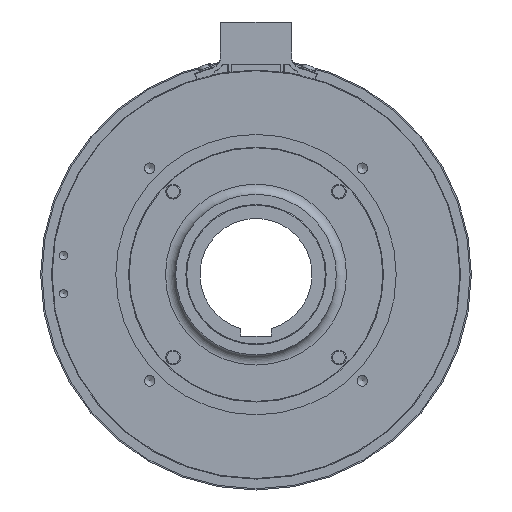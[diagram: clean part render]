
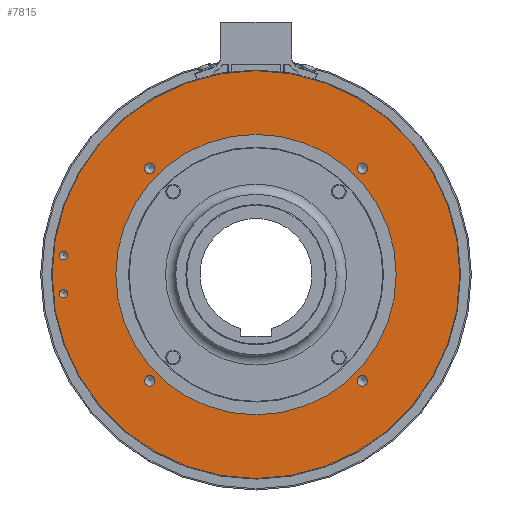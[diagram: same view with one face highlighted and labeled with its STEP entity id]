
A CAD part, left-side view. The second image highlights one B-rep face of the part: STEP entity #7815.
In plain terms, the highlighted planar face has unit normal (-1, 0, 0).
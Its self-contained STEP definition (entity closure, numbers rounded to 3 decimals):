
#1317=FACE_BOUND('',#1989,.T.);
#1318=FACE_BOUND('',#1990,.T.);
#1319=FACE_BOUND('',#1991,.T.);
#1320=FACE_BOUND('',#1992,.T.);
#1321=FACE_BOUND('',#1993,.T.);
#1322=FACE_BOUND('',#1994,.T.);
#1323=FACE_BOUND('',#1995,.T.);
#1509=FACE_OUTER_BOUND('',#1988,.T.);
#1988=EDGE_LOOP('',(#5665,#5666));
#1989=EDGE_LOOP('',(#5667,#5668));
#1990=EDGE_LOOP('',(#5669,#5670));
#1991=EDGE_LOOP('',(#5671,#5672));
#1992=EDGE_LOOP('',(#5673,#5674));
#1993=EDGE_LOOP('',(#5675,#5676));
#1994=EDGE_LOOP('',(#5677,#5678));
#1995=EDGE_LOOP('',(#5679,#5680));
#2622=CIRCLE('',#8509,55.);
#2623=CIRCLE('',#8510,55.);
#2624=CIRCLE('',#8512,80.);
#2625=CIRCLE('',#8513,80.);
#2626=CIRCLE('',#8514,1.621);
#2627=CIRCLE('',#8515,1.621);
#2628=CIRCLE('',#8516,1.621);
#2629=CIRCLE('',#8517,1.621);
#2630=CIRCLE('',#8518,2.067);
#2631=CIRCLE('',#8519,2.067);
#2632=CIRCLE('',#8520,2.067);
#2633=CIRCLE('',#8521,2.067);
#2634=CIRCLE('',#8522,2.067);
#2635=CIRCLE('',#8523,2.067);
#2636=CIRCLE('',#8524,2.067);
#2637=CIRCLE('',#8525,2.067);
#3306=VERTEX_POINT('',#12745);
#3307=VERTEX_POINT('',#12746);
#3308=VERTEX_POINT('',#12751);
#3309=VERTEX_POINT('',#12752);
#3310=VERTEX_POINT('',#12755);
#3311=VERTEX_POINT('',#12756);
#3312=VERTEX_POINT('',#12759);
#3313=VERTEX_POINT('',#12760);
#3314=VERTEX_POINT('',#12763);
#3315=VERTEX_POINT('',#12764);
#3316=VERTEX_POINT('',#12767);
#3317=VERTEX_POINT('',#12768);
#3318=VERTEX_POINT('',#12771);
#3319=VERTEX_POINT('',#12772);
#3320=VERTEX_POINT('',#12775);
#3321=VERTEX_POINT('',#12776);
#4177=EDGE_CURVE('',#3306,#3307,#2622,.T.);
#4179=EDGE_CURVE('',#3307,#3306,#2623,.T.);
#4180=EDGE_CURVE('',#3308,#3309,#2624,.T.);
#4181=EDGE_CURVE('',#3309,#3308,#2625,.T.);
#4182=EDGE_CURVE('',#3310,#3311,#2626,.T.);
#4183=EDGE_CURVE('',#3311,#3310,#2627,.T.);
#4184=EDGE_CURVE('',#3312,#3313,#2628,.T.);
#4185=EDGE_CURVE('',#3313,#3312,#2629,.T.);
#4186=EDGE_CURVE('',#3314,#3315,#2630,.T.);
#4187=EDGE_CURVE('',#3315,#3314,#2631,.T.);
#4188=EDGE_CURVE('',#3316,#3317,#2632,.T.);
#4189=EDGE_CURVE('',#3317,#3316,#2633,.T.);
#4190=EDGE_CURVE('',#3318,#3319,#2634,.T.);
#4191=EDGE_CURVE('',#3319,#3318,#2635,.T.);
#4192=EDGE_CURVE('',#3320,#3321,#2636,.T.);
#4193=EDGE_CURVE('',#3321,#3320,#2637,.T.);
#5665=ORIENTED_EDGE('',*,*,#4180,.T.);
#5666=ORIENTED_EDGE('',*,*,#4181,.T.);
#5667=ORIENTED_EDGE('',*,*,#4182,.T.);
#5668=ORIENTED_EDGE('',*,*,#4183,.T.);
#5669=ORIENTED_EDGE('',*,*,#4184,.T.);
#5670=ORIENTED_EDGE('',*,*,#4185,.T.);
#5671=ORIENTED_EDGE('',*,*,#4186,.T.);
#5672=ORIENTED_EDGE('',*,*,#4187,.T.);
#5673=ORIENTED_EDGE('',*,*,#4188,.T.);
#5674=ORIENTED_EDGE('',*,*,#4189,.T.);
#5675=ORIENTED_EDGE('',*,*,#4190,.T.);
#5676=ORIENTED_EDGE('',*,*,#4191,.T.);
#5677=ORIENTED_EDGE('',*,*,#4192,.T.);
#5678=ORIENTED_EDGE('',*,*,#4193,.T.);
#5679=ORIENTED_EDGE('',*,*,#4177,.F.);
#5680=ORIENTED_EDGE('',*,*,#4179,.F.);
#7364=PLANE('',#8511);
#7815=ADVANCED_FACE('',(#1509,#1317,#1318,#1319,#1320,#1321,#1322,#1323),
#7364,.T.);
#8509=AXIS2_PLACEMENT_3D('',#12747,#10060,#10061);
#8510=AXIS2_PLACEMENT_3D('',#12749,#10063,#10064);
#8511=AXIS2_PLACEMENT_3D('',#12750,#10065,#10066);
#8512=AXIS2_PLACEMENT_3D('',#12753,#10067,#10068);
#8513=AXIS2_PLACEMENT_3D('',#12754,#10069,#10070);
#8514=AXIS2_PLACEMENT_3D('',#12757,#10071,#10072);
#8515=AXIS2_PLACEMENT_3D('',#12758,#10073,#10074);
#8516=AXIS2_PLACEMENT_3D('',#12761,#10075,#10076);
#8517=AXIS2_PLACEMENT_3D('',#12762,#10077,#10078);
#8518=AXIS2_PLACEMENT_3D('',#12765,#10079,#10080);
#8519=AXIS2_PLACEMENT_3D('',#12766,#10081,#10082);
#8520=AXIS2_PLACEMENT_3D('',#12769,#10083,#10084);
#8521=AXIS2_PLACEMENT_3D('',#12770,#10085,#10086);
#8522=AXIS2_PLACEMENT_3D('',#12773,#10087,#10088);
#8523=AXIS2_PLACEMENT_3D('',#12774,#10089,#10090);
#8524=AXIS2_PLACEMENT_3D('',#12777,#10091,#10092);
#8525=AXIS2_PLACEMENT_3D('',#12778,#10093,#10094);
#10060=DIRECTION('center_axis',(-1.,0.,0.));
#10061=DIRECTION('ref_axis',(0.,1.,0.));
#10063=DIRECTION('center_axis',(-1.,0.,0.));
#10064=DIRECTION('ref_axis',(0.,1.,0.));
#10065=DIRECTION('center_axis',(-1.,0.,0.));
#10066=DIRECTION('ref_axis',(0.,0.,
1.));
#10067=DIRECTION('center_axis',(-1.,0.,0.));
#10068=DIRECTION('ref_axis',(0.,1.,0.));
#10069=DIRECTION('center_axis',(-1.,0.,0.));
#10070=DIRECTION('ref_axis',(0.,1.,0.));
#10071=DIRECTION('center_axis',(1.,0.,0.));
#10072=DIRECTION('ref_axis',(0.,0.,
1.));
#10073=DIRECTION('center_axis',(1.,0.,0.));
#10074=DIRECTION('ref_axis',(0.,0.,
1.));
#10075=DIRECTION('center_axis',(1.,0.,0.));
#10076=DIRECTION('ref_axis',(0.,0.,
1.));
#10077=DIRECTION('center_axis',(1.,0.,0.));
#10078=DIRECTION('ref_axis',(0.,0.,
1.));
#10079=DIRECTION('center_axis',(1.,0.,0.));
#10080=DIRECTION('ref_axis',(0.,0.,
1.));
#10081=DIRECTION('center_axis',(1.,0.,0.));
#10082=DIRECTION('ref_axis',(0.,0.,
1.));
#10083=DIRECTION('center_axis',(1.,0.,0.));
#10084=DIRECTION('ref_axis',(0.,0.,
1.));
#10085=DIRECTION('center_axis',(1.,0.,0.));
#10086=DIRECTION('ref_axis',(0.,0.,
1.));
#10087=DIRECTION('center_axis',(1.,0.,0.));
#10088=DIRECTION('ref_axis',(0.,0.,
1.));
#10089=DIRECTION('center_axis',(1.,0.,0.));
#10090=DIRECTION('ref_axis',(0.,0.,
1.));
#10091=DIRECTION('center_axis',(1.,0.,0.));
#10092=DIRECTION('ref_axis',(0.,0.,
1.));
#10093=DIRECTION('center_axis',(1.,0.,0.));
#10094=DIRECTION('ref_axis',(0.,0.,
1.));
#12745=CARTESIAN_POINT('',(-17.1,55.,0.));
#12746=CARTESIAN_POINT('',(-17.1,-55.,0.));
#12747=CARTESIAN_POINT('Origin',(-17.1,0.,0.));
#12749=CARTESIAN_POINT('Origin',(-17.1,0.,0.));
#12750=CARTESIAN_POINT('Origin',(-17.1,67.5,0.));
#12751=CARTESIAN_POINT('',(-17.1,80.,0.));
#12752=CARTESIAN_POINT('',(-17.1,-80.,0.));
#12753=CARTESIAN_POINT('Origin',(-17.1,0.,0.));
#12754=CARTESIAN_POINT('Origin',(-17.1,0.,0.));
#12755=CARTESIAN_POINT('',(-17.1,75.5,9.121));
#12756=CARTESIAN_POINT('',(-17.1,75.5,5.879));
#12757=CARTESIAN_POINT('Origin',(-17.1,75.5,7.5));
#12758=CARTESIAN_POINT('Origin',(-17.1,75.5,7.5));
#12759=CARTESIAN_POINT('',(-17.1,75.5,-5.879));
#12760=CARTESIAN_POINT('',(-17.1,75.5,-9.121));
#12761=CARTESIAN_POINT('Origin',(-17.1,75.5,-7.5));
#12762=CARTESIAN_POINT('Origin',(-17.1,75.5,-7.5));
#12763=CARTESIAN_POINT('',(-17.1,41.719,43.786));
#12764=CARTESIAN_POINT('',(-17.1,41.719,39.652));
#12765=CARTESIAN_POINT('Origin',(-17.1,41.719,41.719));
#12766=CARTESIAN_POINT('Origin',(-17.1,41.719,41.719));
#12767=CARTESIAN_POINT('',(-17.1,-41.719,43.786));
#12768=CARTESIAN_POINT('',(-17.1,-41.719,39.652));
#12769=CARTESIAN_POINT('Origin',(-17.1,-41.719,41.719));
#12770=CARTESIAN_POINT('Origin',(-17.1,-41.719,41.719));
#12771=CARTESIAN_POINT('',(-17.1,-41.719,-39.652));
#12772=CARTESIAN_POINT('',(-17.1,-41.719,-43.786));
#12773=CARTESIAN_POINT('Origin',(-17.1,-41.719,-41.719));
#12774=CARTESIAN_POINT('Origin',(-17.1,-41.719,-41.719));
#12775=CARTESIAN_POINT('',(-17.1,41.719,-39.652));
#12776=CARTESIAN_POINT('',(-17.1,41.719,-43.786));
#12777=CARTESIAN_POINT('Origin',(-17.1,41.719,-41.719));
#12778=CARTESIAN_POINT('Origin',(-17.1,41.719,-41.719));
